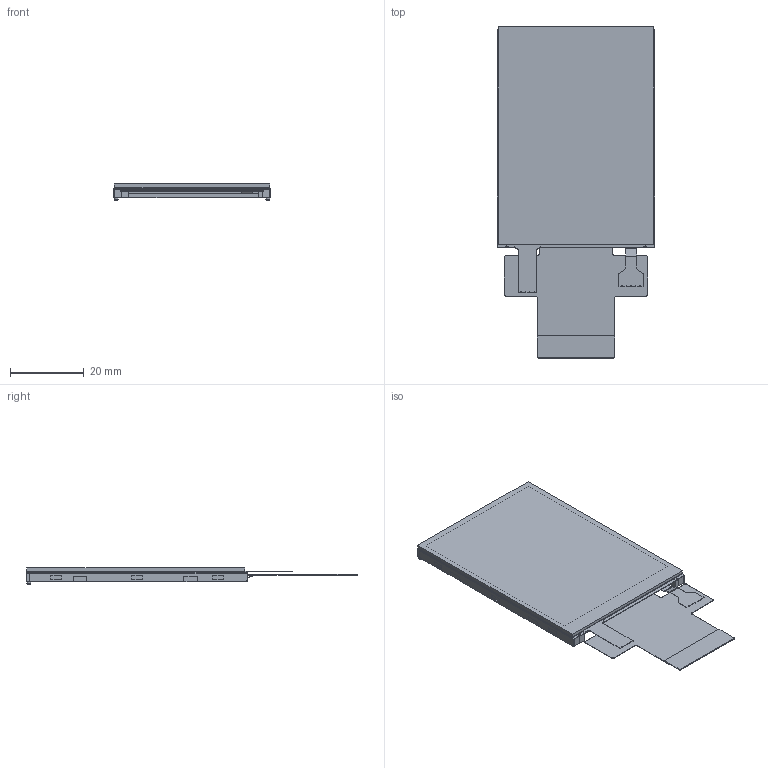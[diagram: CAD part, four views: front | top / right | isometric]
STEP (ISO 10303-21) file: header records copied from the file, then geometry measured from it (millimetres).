
FILE_DESCRIPTION((''),'2;1');
FILE_NAME('CTM240320N56-I_ASM','2019-08-28T',('B00297'),(''),'CREO PARAMETRIC BY PTC INC, 2015200','CREO PARAMETRIC BY PTC INC, 2015200','');
FILE_SCHEMA(('CONFIG_CONTROL_DESIGN'));
Length unit declared in the file: millimetre
Products named in the file (5): BL; LCD; BEZEL; TP; CTM240320N56-I_ASM
Assembly tree (4 placements, depth 2):
  CTM240320N56-I_ASM
    BL
    LCD
    BEZEL
    TP
Bounding box: 42.72 x 90.26 x 4.38 mm (x, y, z)
Volume: 8477.5 mm3; surface area: 23781.1 mm2
Topology: 5 solids, 6 shells, 282 faces, 772 edges, 510 vertices
Faces by surface type: plane 221, cylinder 57, torus 4
Entity records: 9030 total; most frequent: CARTESIAN_POINT 1573, ORIENTED_EDGE 1544, DIRECTION 1476, EDGE_CURVE 772, VECTOR 650, LINE 650, VERTEX_POINT 510, AXIS2_PLACEMENT_3D 413
